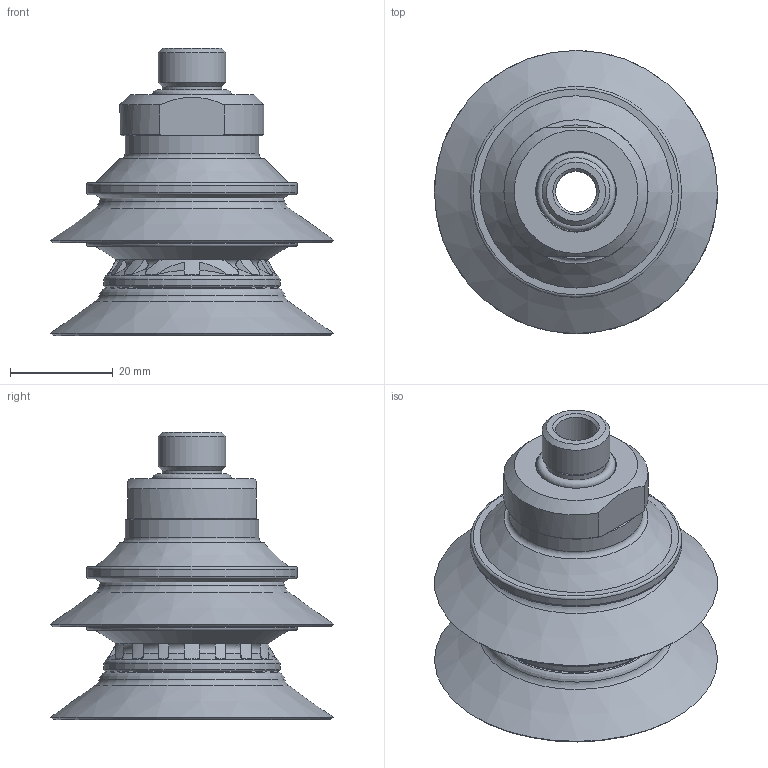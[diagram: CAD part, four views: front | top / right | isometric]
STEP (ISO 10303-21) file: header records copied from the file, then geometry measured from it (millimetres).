
FILE_DESCRIPTION( ( 'Unknown' ), '1' );
FILE_NAME( 'C:/Documents and Settings/owner/官帕 拳搁/荤夯 - B1.5/B2.5-40-U55-S-D-14M.stp', 'Unknown', ( 'Unknown' ), ( 'Unknown' ), 'XStep 1.0', 'Unknown', ' ' );
FILE_SCHEMA( ( 'automotive_design' ) );
Length unit declared in the file: millimetre
Products named in the file (6): Assem1; 14M-Oring; B1.5-40-14M; B2.5-40; B2.5-40-U55; B2.5-40-stopperD
Bounding box: 55 x 55 x 55.84 mm (x, y, z)
Volume: 38661.2 mm3; surface area: 41961.7 mm2
Topology: 10 solids, 10 shells, 782 faces, 2110 edges, 1366 vertices
Faces by surface type: cylinder 236, plane 234, torus 168, cone 144
Full cylindrical faces by diameter (mm): 8 x2, 9.5 x2, 11.5 x2, 13.2 x2, 15.3 x2, 18 x4, 21 x4, 21.5 x4, 22 x2, 24 x2, 24.831 x2, 26 x2, 27.821 x2, 32 x2, 34.2 x2, 41 x4
Entity records: 14367 total; most frequent: CARTESIAN_POINT 4461, ORIENTED_EDGE 1934, DIRECTION 1634, EDGE_CURVE 967, AXIS2_PLACEMENT_3D 716, VERTEX_POINT 677, EDGE_LOOP 490, B_SPLINE_CURVE_WITH_KNOTS 446
